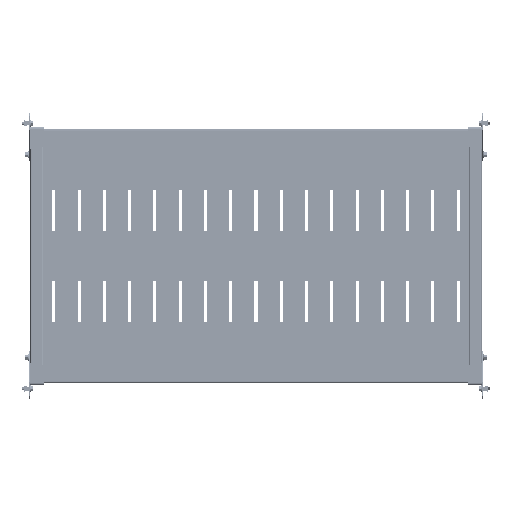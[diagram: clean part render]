
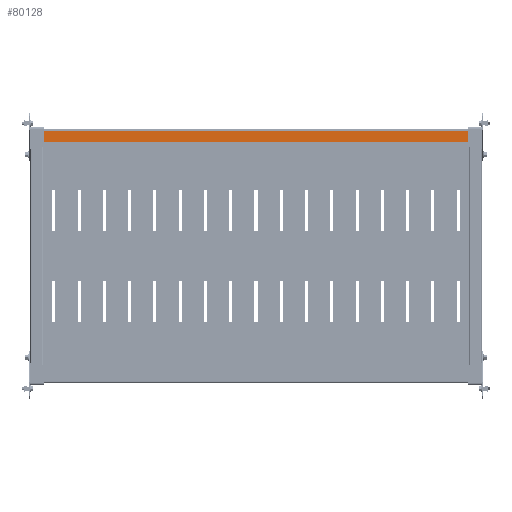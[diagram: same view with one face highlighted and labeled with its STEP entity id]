
A CAD part, front view. The second image highlights one B-rep face of the part: STEP entity #80128.
In plain terms, the highlighted planar face has unit normal (0, -1, 0).
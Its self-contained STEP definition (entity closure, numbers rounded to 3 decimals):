
#2519 = DIRECTION ( 'NONE',  ( 0., 0., -1. ) ) ;
#2788 = DIRECTION ( 'NONE',  ( -1., 0., 0. ) ) ;
#3474 = LINE ( 'NONE', #38765, #29548 ) ;
#4101 = VERTEX_POINT ( 'NONE', #15622 ) ;
#10880 = ORIENTED_EDGE ( 'NONE', *, *, #61419, .T. ) ;
#13847 = DIRECTION ( 'NONE',  ( -1., 0., 0. ) ) ;
#14426 = CARTESIAN_POINT ( 'NONE',  ( 0., -45., 419.5 ) ) ;
#14581 = VECTOR ( 'NONE', #64430, 1000. ) ;
#14757 = CARTESIAN_POINT ( 'NONE',  ( 0., -45., -419.5 ) ) ;
#15158 = ORIENTED_EDGE ( 'NONE', *, *, #62436, .F. ) ;
#15622 = CARTESIAN_POINT ( 'NONE',  ( 228.5, -45., -419.5 ) ) ;
#16785 = EDGE_CURVE ( 'NONE', #91204, #41228, #44967, .T. ) ;
#23846 = VERTEX_POINT ( 'NONE', #35905 ) ;
#27444 = LINE ( 'NONE', #14426, #30815 ) ;
#28562 = AXIS2_PLACEMENT_3D ( 'NONE', #37159, #87744, #2788 ) ;
#29548 = VECTOR ( 'NONE', #65702, 1000. ) ;
#29900 = CARTESIAN_POINT ( 'NONE',  ( 228.5, -45., 419.5 ) ) ;
#30388 = CARTESIAN_POINT ( 'NONE',  ( 225.5, -45., 0. ) ) ;
#30815 = VECTOR ( 'NONE', #91501, 1000. ) ;
#33160 = VECTOR ( 'NONE', #2519, 1000. ) ;
#34288 = CARTESIAN_POINT ( 'NONE',  ( 0., -45., 0. ) ) ;
#35905 = CARTESIAN_POINT ( 'NONE',  ( 225.5, -45., -416.5 ) ) ;
#37159 = CARTESIAN_POINT ( 'NONE',  ( 228.5, -45., -416.5 ) ) ;
#38765 = CARTESIAN_POINT ( 'NONE',  ( 247.9, -45., -419.5 ) ) ;
#39035 = ORIENTED_EDGE ( 'NONE', *, *, #51222, .T. ) ;
#41228 = VERTEX_POINT ( 'NONE', #86161 ) ;
#44967 = CIRCLE ( 'NONE', #64273, 3. ) ;
#49557 = VERTEX_POINT ( 'NONE', #74113 ) ;
#51222 = EDGE_CURVE ( 'NONE', #41228, #23846, #66117, .T. ) ;
#55650 = LINE ( 'NONE', #14757, #14581 ) ;
#56562 = DIRECTION ( 'NONE',  ( 0., 1., 0. ) ) ;
#59218 = CARTESIAN_POINT ( 'NONE',  ( 228.5, -45., 416.5 ) ) ;
#61419 = EDGE_CURVE ( 'NONE', #49557, #91204, #27444, .T. ) ;
#62436 = EDGE_CURVE ( 'NONE', #49557, #86808, #3474, .T. ) ;
#63293 = ORIENTED_EDGE ( 'NONE', *, *, #75791, .T. ) ;
#64273 = AXIS2_PLACEMENT_3D ( 'NONE', #59218, #73137, #87546 ) ;
#64430 = DIRECTION ( 'NONE',  ( 1., 0., 0. ) ) ;
#65702 = DIRECTION ( 'NONE',  ( 0., 0., -1. ) ) ;
#65894 = ORIENTED_EDGE ( 'NONE', *, *, #71708, .T. ) ;
#66117 = LINE ( 'NONE', #30388, #33160 ) ;
#67022 = ORIENTED_EDGE ( 'NONE', *, *, #16785, .T. ) ;
#67503 = CARTESIAN_POINT ( 'NONE',  ( 247.9, -45., -419.5 ) ) ;
#68120 = EDGE_LOOP ( 'NONE', ( #10880, #67022, #39035, #63293, #65894, #15158 ) ) ;
#68571 = CIRCLE ( 'NONE', #28562, 3. ) ;
#68691 = AXIS2_PLACEMENT_3D ( 'NONE', #34288, #56562, #13847 ) ;
#71708 = EDGE_CURVE ( 'NONE', #4101, #86808, #55650, .T. ) ;
#73137 = DIRECTION ( 'NONE',  ( 0., -1., 0. ) ) ;
#74113 = CARTESIAN_POINT ( 'NONE',  ( 247.9, -45., 419.5 ) ) ;
#75791 = EDGE_CURVE ( 'NONE', #23846, #4101, #68571, .T. ) ;
#77461 = PLANE ( 'NONE',  #68691 ) ;
#80128 = ADVANCED_FACE ( 'NONE', ( #85828 ), #77461, .F. ) ;
#85828 = FACE_OUTER_BOUND ( 'NONE', #68120, .T. ) ;
#86161 = CARTESIAN_POINT ( 'NONE',  ( 225.5, -45., 416.5 ) ) ;
#86808 = VERTEX_POINT ( 'NONE', #67503 ) ;
#87546 = DIRECTION ( 'NONE',  ( -1., 0., 0. ) ) ;
#87744 = DIRECTION ( 'NONE',  ( 0., -1., 0. ) ) ;
#91204 = VERTEX_POINT ( 'NONE', #29900 ) ;
#91501 = DIRECTION ( 'NONE',  ( -1., 0., 0. ) ) ;
